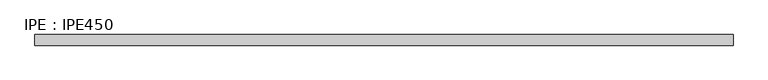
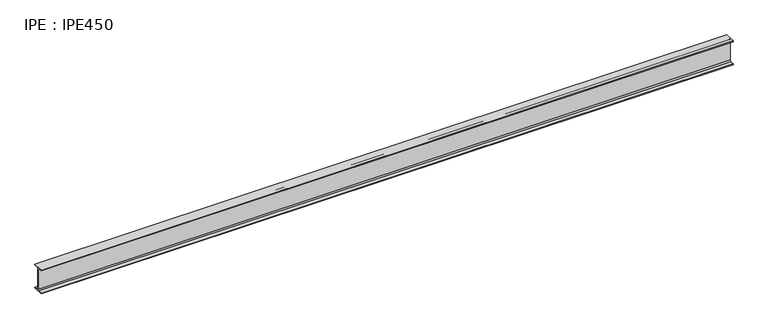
"""IFC4 building model written with IfcOpenShell, lengths in millimetres: beam geometry, IPE : IPE450."""

from ifc_helpers import new_model, si_unit, point, frame, frame_2d, origin, place, context, project, spatial, polyline, circle_curve, trimmed, segment, composite_curve, outline, extrude, source, transform, mapped, element, save


def ipe_ipe450_39caabba(model_context):
    return source(origin(), model_context, "Body", "SweptSolid", [
        extrude(outline(composite_curve([segment(polyline([(95.0, -210.4), (95.0, -225.0), (-95.0, -225.0), (-95.0, -210.4), (-25.7, -210.4)]), True, "CONTINUOUS"), segment(trimmed(circle_curve(frame_2d((-25.7, -189.4)), 21.0), [point((-25.7, -210.4))], [point((-4.7, -189.4))], True, "CARTESIAN"), True, "CONTINUOUS"), segment(polyline([(-4.7, -189.4), (-4.7, 189.4)]), True, "CONTINUOUS"), segment(trimmed(circle_curve(frame_2d((-25.7, 189.4)), 21.0), [point((-4.7, 189.4))], [point((-25.7, 210.4))], True, "CARTESIAN"), True, "CONTINUOUS"), segment(polyline([(-25.7, 210.4), (-95.0, 210.4), (-95.0, 225.0), (95.0, 225.0), (95.0, 210.4), (25.7, 210.4)]), True, "CONTINUOUS"), segment(trimmed(circle_curve(frame_2d((25.7, 189.4)), 21.0), [point((25.7, 210.4))], [point((4.7, 189.4))], True, "CARTESIAN"), True, "CONTINUOUS"), segment(polyline([(4.7, 189.4), (4.7, -189.4)]), True, "CONTINUOUS"), segment(trimmed(circle_curve(frame_2d((25.7, -189.4)), 21.0), [point((4.7, -189.4))], [point((25.7, -210.4))], True, "CARTESIAN"), True, "CONTINUOUS"), segment(polyline([(25.7, -210.4), (95.0, -210.4)]), True, "CONTINUOUS")], self_intersect=False)), frame((-6218.85, 0.0, 0.0), z_axis=(1.0, 0.0, 0.0), x_axis=(0.0, 1.0, 0.0)), (0.0, 0.0, 1.0), 12437.7),
    ])


if __name__ == "__main__":
    model = new_model("IFC4")
    model_context = context("Model", 3, world=origin())
    ifc_project = project(units=[si_unit("LENGTHUNIT", "METRE", prefix="MILLI")], contexts=[model_context])
    site = spatial("IfcSite", under=ifc_project)
    building = spatial("IfcBuilding", under=site)
    placement = place(None, origin())
    ipe_ipe450_shape = ipe_ipe450_39caabba(model_context)
    element("IfcBeam", 1, ObjectType="IPE : IPE450", at=placement, inside=building, context=model_context, shape_type="MappedRepresentation", body=[
        mapped(ipe_ipe450_shape, transform((0.0, 0.0, 0.0), x_axis=(1.0, 0.0, 0.0), y_axis=(0.0, 1.0, 0.0), z_axis=(0.0, 0.0, 1.0))),
    ])
    save(model, "model.ifc")
